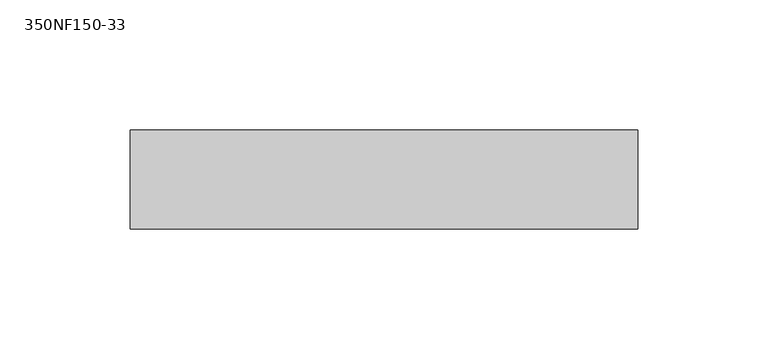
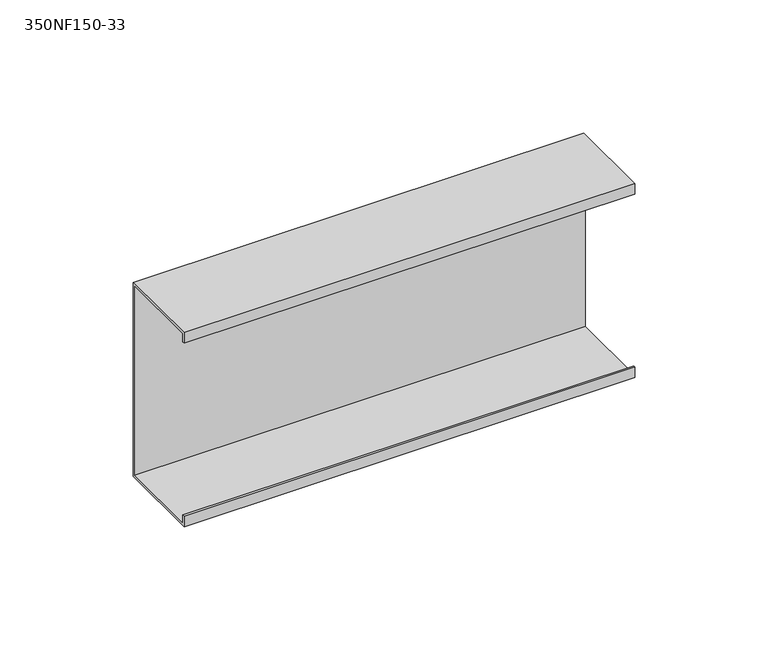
"""IFC4 building model written with IfcOpenShell, lengths in millimetres: beam geometry, BIMSF-SSMA-S : 350NF150-33."""

from ifc_helpers import new_model, si_unit, frame, origin, place, context, project, spatial, polyline, outline, extrude, source, transform, mapped, element, save


def beam_350nf150_33_13dd2c0c(model_context):
    return source(origin(), model_context, "Body", "SweptSolid", [
        extrude(outline(polyline([(19.05, 44.45), (19.05, -44.45), (-19.05, -44.45), (-19.05, -39.6748), (-18.1676842, -39.6748), (-18.1676842, -43.5676842), (18.1676842, -43.5676842), (18.1676842, 43.5676842), (-18.1676842, 43.5676842), (-18.1676842, 39.6748), (-19.05, 39.6748), (-19.05, 44.45), (19.05, 44.45)])), frame((-97.63125, 0.0, 0.0), z_axis=(1.0, 0.0, 0.0), x_axis=(0.0, 1.0, 0.0)), (0.0, 0.0, 1.0), 195.2625),
    ])


if __name__ == "__main__":
    model = new_model("IFC4")
    model_context = context("Model", 3, world=origin())
    ifc_project = project(units=[si_unit("LENGTHUNIT", "METRE", prefix="MILLI")], contexts=[model_context])
    site = spatial("IfcSite", under=ifc_project)
    building = spatial("IfcBuilding", under=site)
    placement = place(None, origin())
    beam_350nf150_33_shape = beam_350nf150_33_13dd2c0c(model_context)
    element("IfcBeam", 1, ObjectType="BIMSF-SSMA-S : 350NF150-33", at=placement, inside=building, context=model_context, shape_type="MappedRepresentation", body=[
        mapped(beam_350nf150_33_shape, transform((0.0, 0.0, 0.0), x_axis=(1.0, 0.0, 0.0), y_axis=(0.0, 1.0, 0.0), z_axis=(0.0, 0.0, 1.0))),
    ])
    save(model, "model.ifc")
